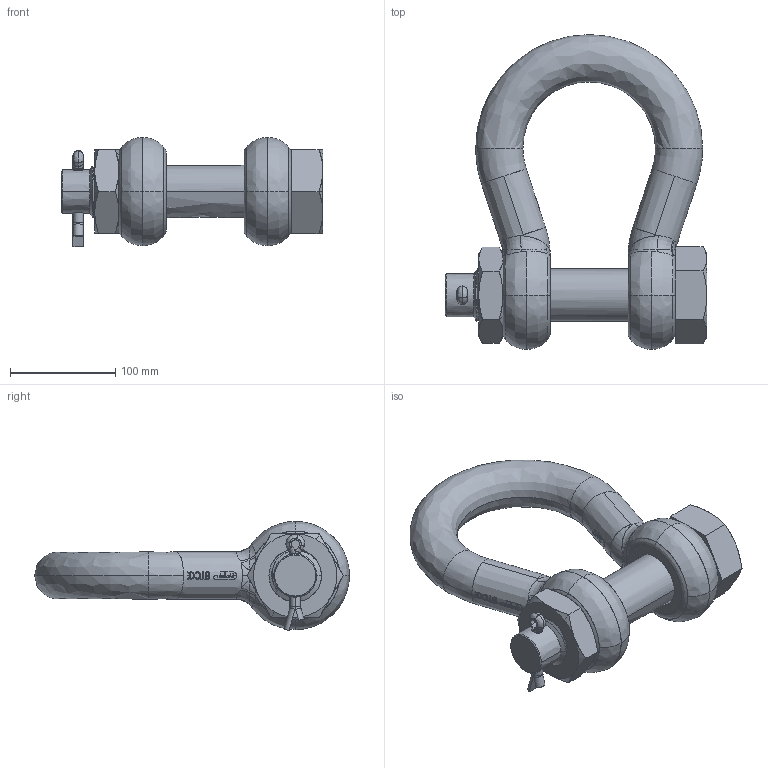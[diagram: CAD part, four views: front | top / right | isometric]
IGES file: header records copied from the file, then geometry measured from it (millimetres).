
Start section: START RECORD GO HERE.
Global section: file name: POGHMB45.igs; native system: Solidworks 2009                             ; preprocessor: Solidworks                 ; author: v.b.; organization: P4; date: 20090826.095352; units: millimetre
Bounding box: 249 x 299.5 x 103.87 mm (x, y, z)
Surface area: 199697.5 mm2 (no closed solid volume)
Topology: 0 solids, 0 shells, 864 faces, 5571 edges, 5563 vertices
Faces by surface type: bspline 375, plane 310, revolution 179
